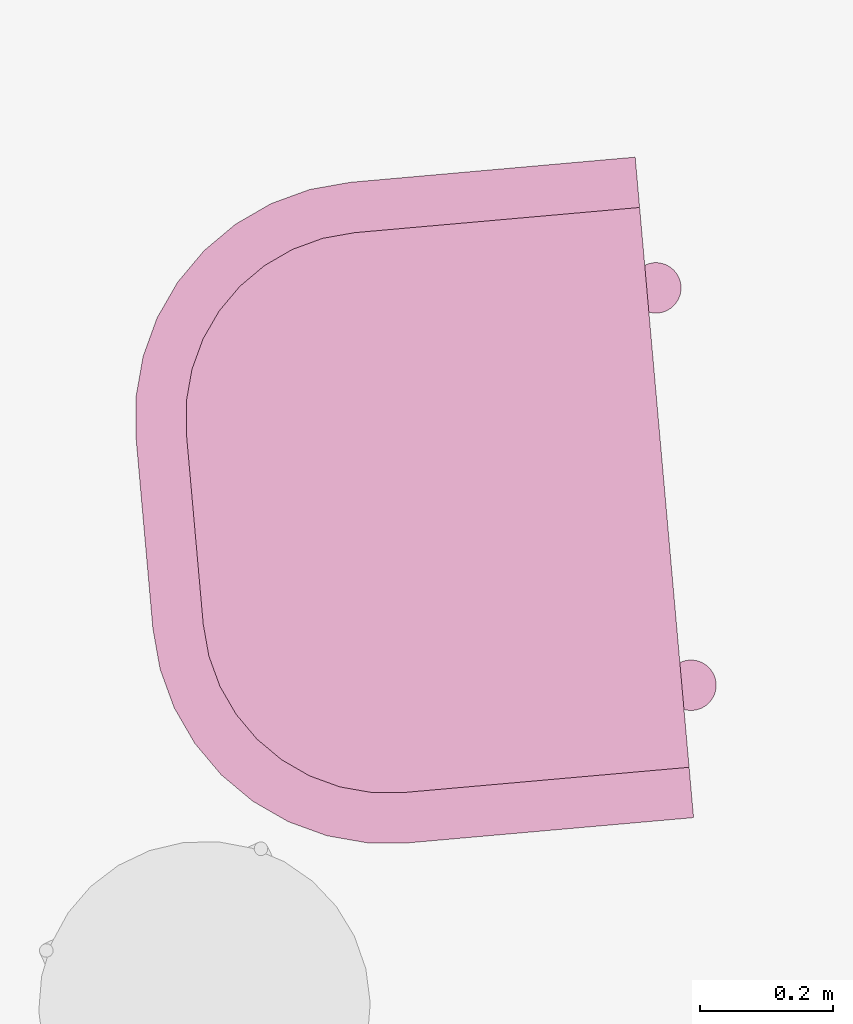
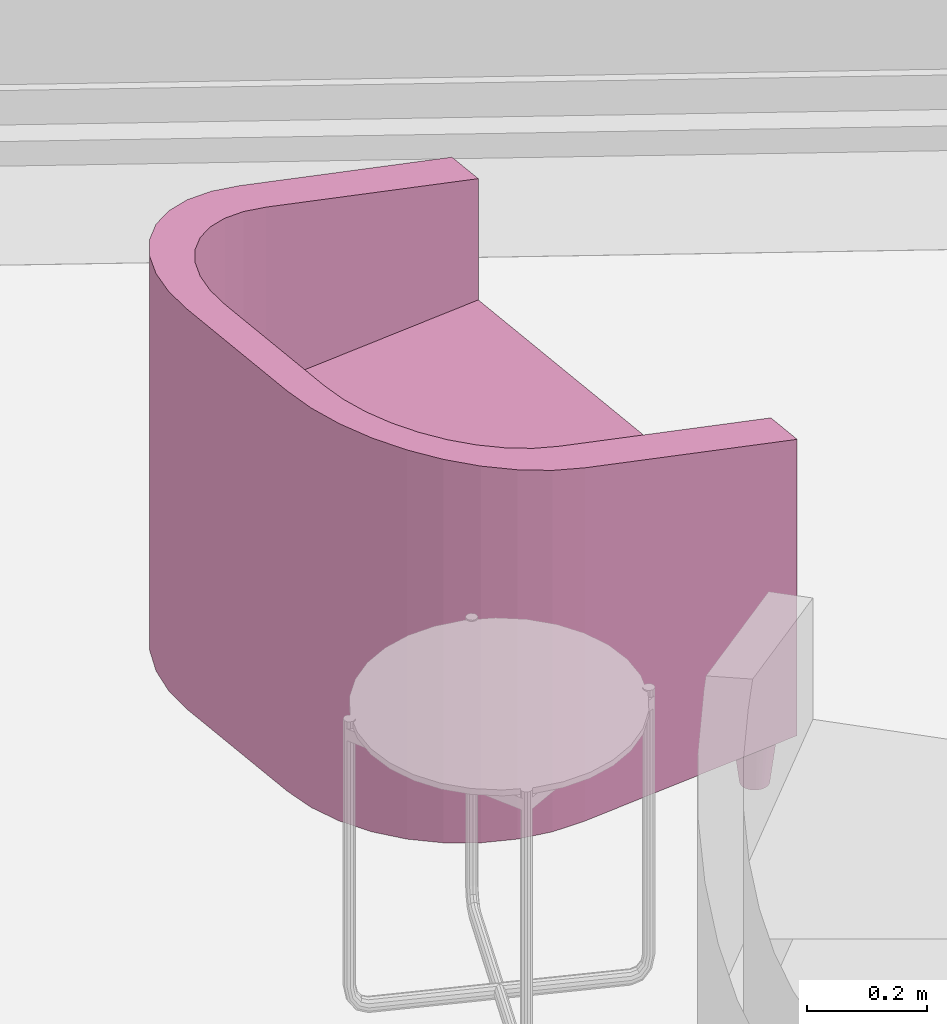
# One storey, part 25 of 36: 1 furnishing.
"""IFC2X3 building model written with IfcOpenShell, lengths in metres."""

from ifc_helpers import new_model, entity, si_unit, converted_unit, derived_unit, money_unit, direction, frame, origin_with_axes, place, context, subcontext, project, spatial, faceted_brep, source, transform, mapped, type_object, element, save


model = new_model("IFC2X3")

# Units and contexts
model_context = context("Model", 3, precision=1e-05, world=origin_with_axes(), true_north=direction((0.0, 1.0)))
body_context = subcontext(model_context, "Body", "Model", "MODEL_VIEW")
ifc_project = project(units=[si_unit("LENGTHUNIT", "METRE"), si_unit("AREAUNIT", "SQUARE_METRE"), si_unit("VOLUMEUNIT", "CUBIC_METRE"), converted_unit("PLANEANGLEUNIT", "DEGREE", entity("IfcPlaneAngleMeasure", 0.0174532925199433), si_unit("PLANEANGLEUNIT", "RADIAN"), dimensions=[0, 0, 0, 0, 0, 0, 0]), money_unit("EUR"), converted_unit("TIMEUNIT", "Year", entity("IfcTimeMeasure", 31556926.0), si_unit("TIMEUNIT", "SECOND"), dimensions=[0, 0, 1, 0, 0, 0, 0]), si_unit("MASSUNIT", "GRAM", prefix="KILO"), si_unit("THERMODYNAMICTEMPERATUREUNIT", "DEGREE_CELSIUS"), si_unit("LUMINOUSINTENSITYUNIT", "LUMEN"), si_unit("ENERGYUNIT", "JOULE", prefix="MEGA"), derived_unit("THERMALCONDUCTANCEUNIT", [(si_unit("POWERUNIT", "WATT"), 1), (si_unit("LENGTHUNIT", "METRE"), -1), (si_unit("THERMODYNAMICTEMPERATUREUNIT", "KELVIN"), -1)]), derived_unit("SPECIFICHEATCAPACITYUNIT", [(si_unit("ENERGYUNIT", "JOULE"), 1), (si_unit("MASSUNIT", "GRAM", prefix="KILO"), -1), (si_unit("THERMODYNAMICTEMPERATUREUNIT", "KELVIN"), -1)]), derived_unit("MASSDENSITYUNIT", [(si_unit("MASSUNIT", "GRAM", prefix="KILO"), 1), (si_unit("VOLUMEUNIT", "CUBIC_METRE"), -1)])], contexts=[model_context])

# Site, building, storey
site_placement = place(None, frame((-3.949935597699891, 1.740105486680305, 0.0), z_axis=(0.0, 0.0, 1.0), x_axis=(0.8799804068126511, -0.475009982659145, 0.0)))
site = spatial("IfcSite", under=ifc_project, at=site_placement, Name="Gelände", CompositionType="ELEMENT")
building_placement = place(site_placement, origin_with_axes())
building = spatial("IfcBuilding", under=site, at=building_placement, Name="Gebäude", CompositionType="ELEMENT")
storey_placement = place(building_placement, origin_with_axes())
storey = spatial("IfcBuildingStorey", under=building, at=storey_placement, Name="Erdgeschoss", CompositionType="ELEMENT", Elevation=0.0)

# Furnishing
furniture_type = type_object("IfcFurnitureType", Name="bucket chair (1)", AssemblyPlace="NOTDEFINED")
shared_shape = source(origin_with_axes(), body_context, "Body", "Brep", [
    faceted_brep([(0.47421411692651, 0.73188933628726, 0.0), (0.4746, 0.7363000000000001, 0.0), (0.4873, 0.7363000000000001, 0.1016), (0.4867211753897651, 0.72968400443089, 0.1016), (0.473068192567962, 0.7276126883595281, 0.0), (0.4711970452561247, 0.7236000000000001, 0.0), (0.468657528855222, 0.719973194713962, 0.0), (0.4655268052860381, 0.7168424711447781, 0.0), (0.4619, 0.7143029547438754, 0.0), (0.457887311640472, 0.712431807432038, 0.0), (0.45361066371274, 0.71128588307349, 0.0), (0.4492, 0.7109000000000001, 0.0), (0.44478933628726, 0.71128588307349, 0.0), (0.440512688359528, 0.712431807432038, 0.0), (0.4365, 0.7143029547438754, 0.0), (0.4328731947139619, 0.7168424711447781, 0.0), (0.429742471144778, 0.719973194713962, 0.0), (0.4272029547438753, 0.7236000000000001, 0.0), (0.4253318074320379, 0.7276126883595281, 0.0), (0.4241858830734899, 0.73188933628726, 0.0), (0.4238, 0.7363000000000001, 0.0), (0.4241858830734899, 0.7407106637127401, 0.0), (0.4253318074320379, 0.744987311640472, 0.0), (0.4272029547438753, 0.7490000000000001, 0.0), (0.429742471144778, 0.7526268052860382, 0.0), (0.4328731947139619, 0.7557575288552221, 0.0), (0.4365, 0.7582970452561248, 0.0), (0.440512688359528, 0.7601681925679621, 0.0), (0.44478933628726, 0.7613141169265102, 0.0), (0.4492, 0.7617, 0.0), (0.45361066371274, 0.7613141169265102, 0.0), (0.457887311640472, 0.7601681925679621, 0.0), (0.4619, 0.7582970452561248, 0.0), (0.4655268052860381, 0.7557575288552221, 0.0), (0.468657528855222, 0.7526268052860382, 0.0), (0.4711970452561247, 0.7490000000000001, 0.0), (0.4730681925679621, 0.744987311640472, 0.0), (0.4742141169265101, 0.7407106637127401, 0.0), (0.4867211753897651, 0.7429159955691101, 0.1016), (0.4850022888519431, 0.749330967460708, 0.1016), (0.4821955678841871, 0.7553500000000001, 0.1016), (0.4783862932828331, 0.7607902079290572, 0.1016), (0.4736902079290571, 0.7654862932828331, 0.1016), (0.46825, 0.7692955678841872, 0.1016), (0.462230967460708, 0.7721022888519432, 0.1016), (0.45581599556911, 0.7738211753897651, 0.1016), (0.4492, 0.7744000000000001, 0.1016), (0.44258400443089, 0.7738211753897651, 0.1016), (0.436169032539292, 0.7721022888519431, 0.1016), (0.43015, 0.7692955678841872, 0.1016), (0.4247097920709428, 0.7654862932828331, 0.1016), (0.420013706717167, 0.7607902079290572, 0.1016), (0.4162044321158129, 0.7553500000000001, 0.1016), (0.4133977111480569, 0.749330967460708, 0.1016), (0.4116788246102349, 0.7429159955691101, 0.1016), (0.4111, 0.7363000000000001, 0.1016), (0.4116788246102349, 0.72968400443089, 0.1016), (0.4133977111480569, 0.7232690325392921, 0.1016), (0.4162044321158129, 0.71725, 0.1016), (0.420013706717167, 0.711809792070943, 0.1016), (0.4247097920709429, 0.707113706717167, 0.1016), (0.43015, 0.703304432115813, 0.1016), (0.436169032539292, 0.700497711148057, 0.1016), (0.44258400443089, 0.698778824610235, 0.1016), (0.4492, 0.6982000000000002, 0.1016), (0.45581599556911, 0.698778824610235, 0.1016), (0.462230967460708, 0.700497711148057, 0.1016), (0.4682499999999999, 0.7033044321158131, 0.1016), (0.4736902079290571, 0.707113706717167, 0.1016), (0.478386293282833, 0.711809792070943, 0.1016), (0.482195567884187, 0.71725, 0.1016), (0.485002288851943, 0.7232690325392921, 0.1016)], [[[0, 1, 2, 3]], [[0, 4, 5, 6, 7, 8, 9, 10, 11, 12, 13, 14, 15, 16, 17, 18, 19, 20, 21, 22, 23, 24, 25, 26, 27, 28, 29, 30, 31, 32, 33, 34, 35, 36, 37, 1]], [[1, 37, 38, 2]], [[3, 2, 38, 39, 40, 41, 42, 43, 44, 45, 46, 47, 48, 49, 50, 51, 52, 53, 54, 55, 56, 57, 58, 59, 60, 61, 62, 63, 64, 65, 66, 67, 68, 69, 70, 71]], [[4, 0, 3, 71]], [[5, 4, 71, 70]], [[6, 5, 70, 69]], [[7, 6, 69, 68]], [[8, 7, 68, 67]], [[9, 8, 67, 66]], [[10, 9, 66, 65]], [[11, 10, 65, 64]], [[12, 11, 64, 63]], [[13, 12, 63, 62]], [[14, 13, 62, 61]], [[15, 14, 61, 60]], [[16, 15, 60, 59]], [[17, 16, 59, 58]], [[18, 17, 58, 57]], [[19, 18, 57, 56]], [[20, 19, 56, 55]], [[21, 20, 55, 54]], [[22, 21, 54, 53]], [[23, 22, 53, 52]], [[24, 23, 52, 51]], [[25, 24, 51, 50]], [[26, 25, 50, 49]], [[27, 26, 49, 48]], [[28, 27, 48, 47]], [[29, 28, 47, 46]], [[30, 29, 46, 45]], [[31, 30, 45, 44]], [[32, 31, 44, 43]], [[33, 32, 43, 42]], [[34, 33, 42, 41]], [[35, 34, 41, 40]], [[36, 35, 40, 39]], [[37, 36, 39, 38]]]),
    faceted_brep([(-0.42418588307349, 0.73188933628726, 0.0), (-0.4238, 0.7363000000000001, 0.0), (-0.4111, 0.7363000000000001, 0.1016), (-0.4116788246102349, 0.72968400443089, 0.1016), (-0.425331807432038, 0.7276126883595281, 0.0), (-0.4272029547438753, 0.7236000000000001, 0.0), (-0.429742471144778, 0.719973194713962, 0.0), (-0.4328731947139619, 0.7168424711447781, 0.0), (-0.4365, 0.7143029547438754, 0.0), (-0.440512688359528, 0.712431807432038, 0.0), (-0.44478933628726, 0.71128588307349, 0.0), (-0.4492, 0.7109000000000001, 0.0), (-0.45361066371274, 0.71128588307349, 0.0), (-0.457887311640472, 0.712431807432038, 0.0), (-0.4619, 0.7143029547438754, 0.0), (-0.4655268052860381, 0.7168424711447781, 0.0), (-0.468657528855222, 0.719973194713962, 0.0), (-0.4711970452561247, 0.7236000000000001, 0.0), (-0.4730681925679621, 0.7276126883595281, 0.0), (-0.4742141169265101, 0.73188933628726, 0.0), (-0.4746, 0.7363000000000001, 0.0), (-0.4742141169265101, 0.7407106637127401, 0.0), (-0.4730681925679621, 0.744987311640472, 0.0), (-0.4711970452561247, 0.7490000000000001, 0.0), (-0.468657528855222, 0.7526268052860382, 0.0), (-0.4655268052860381, 0.7557575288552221, 0.0), (-0.4619, 0.7582970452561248, 0.0), (-0.457887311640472, 0.7601681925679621, 0.0), (-0.45361066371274, 0.7613141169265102, 0.0), (-0.4492, 0.7617, 0.0), (-0.44478933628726, 0.7613141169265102, 0.0), (-0.440512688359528, 0.7601681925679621, 0.0), (-0.4365, 0.7582970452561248, 0.0), (-0.4328731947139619, 0.7557575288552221, 0.0), (-0.4297424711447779, 0.7526268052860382, 0.0), (-0.4272029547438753, 0.7490000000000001, 0.0), (-0.4253318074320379, 0.744987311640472, 0.0), (-0.4241858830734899, 0.7407106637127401, 0.0), (-0.4116788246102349, 0.7429159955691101, 0.1016), (-0.4133977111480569, 0.749330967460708, 0.1016), (-0.4162044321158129, 0.7553500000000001, 0.1016), (-0.4200137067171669, 0.7607902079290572, 0.1016), (-0.4247097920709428, 0.7654862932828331, 0.1016), (-0.43015, 0.7692955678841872, 0.1016), (-0.436169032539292, 0.7721022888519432, 0.1016), (-0.44258400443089, 0.7738211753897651, 0.1016), (-0.4492, 0.7744000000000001, 0.1016), (-0.45581599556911, 0.7738211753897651, 0.1016), (-0.462230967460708, 0.7721022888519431, 0.1016), (-0.4682499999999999, 0.7692955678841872, 0.1016), (-0.4736902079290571, 0.7654862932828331, 0.1016), (-0.478386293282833, 0.7607902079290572, 0.1016), (-0.482195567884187, 0.7553500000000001, 0.1016), (-0.4850022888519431, 0.749330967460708, 0.1016), (-0.4867211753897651, 0.7429159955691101, 0.1016), (-0.4873, 0.7363000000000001, 0.1016), (-0.4867211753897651, 0.72968400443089, 0.1016), (-0.4850022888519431, 0.7232690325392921, 0.1016), (-0.482195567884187, 0.71725, 0.1016), (-0.478386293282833, 0.711809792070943, 0.1016), (-0.4736902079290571, 0.707113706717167, 0.1016), (-0.4682499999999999, 0.703304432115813, 0.1016), (-0.462230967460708, 0.700497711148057, 0.1016), (-0.45581599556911, 0.698778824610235, 0.1016), (-0.4492, 0.6982000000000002, 0.1016), (-0.44258400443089, 0.698778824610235, 0.1016), (-0.436169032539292, 0.700497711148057, 0.1016), (-0.43015, 0.7033044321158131, 0.1016), (-0.4247097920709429, 0.707113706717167, 0.1016), (-0.420013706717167, 0.711809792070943, 0.1016), (-0.4162044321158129, 0.71725, 0.1016), (-0.413397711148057, 0.7232690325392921, 0.1016)], [[[0, 1, 2, 3]], [[0, 4, 5, 6, 7, 8, 9, 10, 11, 12, 13, 14, 15, 16, 17, 18, 19, 20, 21, 22, 23, 24, 25, 26, 27, 28, 29, 30, 31, 32, 33, 34, 35, 36, 37, 1]], [[1, 37, 38, 2]], [[3, 2, 38, 39, 40, 41, 42, 43, 44, 45, 46, 47, 48, 49, 50, 51, 52, 53, 54, 55, 56, 57, 58, 59, 60, 61, 62, 63, 64, 65, 66, 67, 68, 69, 70, 71]], [[4, 0, 3, 71]], [[5, 4, 71, 70]], [[6, 5, 70, 69]], [[7, 6, 69, 68]], [[8, 7, 68, 67]], [[9, 8, 67, 66]], [[10, 9, 66, 65]], [[11, 10, 65, 64]], [[12, 11, 64, 63]], [[13, 12, 63, 62]], [[14, 13, 62, 61]], [[15, 14, 61, 60]], [[16, 15, 60, 59]], [[17, 16, 59, 58]], [[18, 17, 58, 57]], [[19, 18, 57, 56]], [[20, 19, 56, 55]], [[21, 20, 55, 54]], [[22, 21, 54, 53]], [[23, 22, 53, 52]], [[24, 23, 52, 51]], [[25, 24, 51, 50]], [[26, 25, 50, 49]], [[27, 26, 49, 48]], [[28, 27, 48, 47]], [[29, 28, 47, 46]], [[30, 29, 46, 45]], [[31, 30, 45, 44]], [[32, 31, 44, 43]], [[33, 32, 43, 42]], [[34, 33, 42, 41]], [[35, 34, 41, 40]], [[36, 35, 40, 39]], [[37, 36, 39, 38]]]),
    faceted_brep([(0.3258141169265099, 0.7963893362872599, 0.0), (0.3261999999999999, 0.8008, 0.0), (0.3388999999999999, 0.8008, 0.1016), (0.338321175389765, 0.7941840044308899, 0.1016), (0.3246681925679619, 0.792112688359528, 0.0), (0.3227970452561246, 0.7881, 0.0), (0.3202575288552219, 0.7844731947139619, 0.0), (0.317126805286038, 0.781342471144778, 0.0), (0.3134999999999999, 0.7788029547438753, 0.0), (0.3094873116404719, 0.7769318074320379, 0.0), (0.3052106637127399, 0.77578588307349, 0.0), (0.3007999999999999, 0.7754, 0.0), (0.2963893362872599, 0.77578588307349, 0.0), (0.2921126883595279, 0.7769318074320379, 0.0), (0.2880999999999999, 0.7788029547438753, 0.0), (0.2844731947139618, 0.781342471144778, 0.0), (0.2813424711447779, 0.7844731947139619, 0.0), (0.2788029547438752, 0.7881, 0.0), (0.2769318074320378, 0.792112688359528, 0.0), (0.2757858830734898, 0.7963893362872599, 0.0), (0.2753999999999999, 0.8008, 0.0), (0.2757858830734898, 0.80521066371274, 0.0), (0.2769318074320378, 0.8094873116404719, 0.0), (0.2788029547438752, 0.8135, 0.0), (0.2813424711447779, 0.8171268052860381, 0.0), (0.2844731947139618, 0.820257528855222, 0.0), (0.2880999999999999, 0.8227970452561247, 0.0), (0.2921126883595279, 0.824668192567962, 0.0), (0.2963893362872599, 0.8258141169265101, 0.0), (0.3007999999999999, 0.8261999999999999, 0.0), (0.3052106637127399, 0.8258141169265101, 0.0), (0.3094873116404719, 0.824668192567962, 0.0), (0.3134999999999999, 0.8227970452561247, 0.0), (0.317126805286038, 0.820257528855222, 0.0), (0.320257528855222, 0.8171268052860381, 0.0), (0.3227970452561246, 0.8135, 0.0), (0.324668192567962, 0.8094873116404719, 0.0), (0.32581411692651, 0.80521066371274, 0.0), (0.338321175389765, 0.80741599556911, 0.1016), (0.336602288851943, 0.8138309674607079, 0.1016), (0.333795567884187, 0.81985, 0.1016), (0.329986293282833, 0.825290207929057, 0.1016), (0.3252902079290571, 0.829986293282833, 0.1016), (0.3198499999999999, 0.8337955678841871, 0.1016), (0.3138309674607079, 0.8366022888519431, 0.1016), (0.3074159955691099, 0.838321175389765, 0.1016), (0.3007999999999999, 0.8389, 0.1016), (0.2941840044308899, 0.838321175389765, 0.1016), (0.2877690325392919, 0.8366022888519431, 0.1016), (0.2817499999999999, 0.8337955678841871, 0.1016), (0.2763097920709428, 0.829986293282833, 0.1016), (0.2716137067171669, 0.825290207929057, 0.1016), (0.2678044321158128, 0.81985, 0.1016), (0.2649977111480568, 0.8138309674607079, 0.1016), (0.2632788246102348, 0.80741599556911, 0.1016), (0.2626999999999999, 0.8008, 0.1016), (0.2632788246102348, 0.7941840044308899, 0.1016), (0.2649977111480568, 0.787769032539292, 0.1016), (0.2678044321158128, 0.78175, 0.1016), (0.2716137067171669, 0.7763097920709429, 0.1016), (0.2763097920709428, 0.7716137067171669, 0.1016), (0.2817499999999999, 0.7678044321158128, 0.1016), (0.2877690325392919, 0.7649977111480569, 0.1016), (0.2941840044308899, 0.7632788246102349, 0.1016), (0.3007999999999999, 0.7627, 0.1016), (0.3074159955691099, 0.7632788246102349, 0.1016), (0.3138309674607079, 0.7649977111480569, 0.1016), (0.3198499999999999, 0.767804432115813, 0.1016), (0.325290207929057, 0.7716137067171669, 0.1016), (0.3299862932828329, 0.7763097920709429, 0.1016), (0.333795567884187, 0.78175, 0.1016), (0.3366022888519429, 0.787769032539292, 0.1016)], [[[0, 1, 2, 3]], [[0, 4, 5, 6, 7, 8, 9, 10, 11, 12, 13, 14, 15, 16, 17, 18, 19, 20, 21, 22, 23, 24, 25, 26, 27, 28, 29, 30, 31, 32, 33, 34, 35, 36, 37, 1]], [[1, 37, 38, 2]], [[3, 2, 38, 39, 40, 41, 42, 43, 44, 45, 46, 47, 48, 49, 50, 51, 52, 53, 54, 55, 56, 57, 58, 59, 60, 61, 62, 63, 64, 65, 66, 67, 68, 69, 70, 71]], [[4, 0, 3, 71]], [[5, 4, 71, 70]], [[6, 5, 70, 69]], [[7, 6, 69, 68]], [[8, 7, 68, 67]], [[9, 8, 67, 66]], [[10, 9, 66, 65]], [[11, 10, 65, 64]], [[12, 11, 64, 63]], [[13, 12, 63, 62]], [[14, 13, 62, 61]], [[15, 14, 61, 60]], [[16, 15, 60, 59]], [[17, 16, 59, 58]], [[18, 17, 58, 57]], [[19, 18, 57, 56]], [[20, 19, 56, 55]], [[21, 20, 55, 54]], [[22, 21, 54, 53]], [[23, 22, 53, 52]], [[24, 23, 52, 51]], [[25, 24, 51, 50]], [[26, 25, 50, 49]], [[27, 26, 49, 48]], [[28, 27, 48, 47]], [[29, 28, 47, 46]], [[30, 29, 46, 45]], [[31, 30, 45, 44]], [[32, 31, 44, 43]], [[33, 32, 43, 42]], [[34, 33, 42, 41]], [[35, 34, 41, 40]], [[36, 35, 40, 39]], [[37, 36, 39, 38]]]),
    faceted_brep([(-0.2757858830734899, 0.7963893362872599, 0.0), (-0.2753999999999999, 0.8008, 0.0), (-0.2626999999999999, 0.8008, 0.1016), (-0.2632788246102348, 0.7941840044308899, 0.1016), (-0.2769318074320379, 0.792112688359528, 0.0), (-0.2788029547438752, 0.7881, 0.0), (-0.2813424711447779, 0.7844731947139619, 0.0), (-0.2844731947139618, 0.781342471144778, 0.0), (-0.2880999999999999, 0.7788029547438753, 0.0), (-0.2921126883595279, 0.7769318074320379, 0.0), (-0.2963893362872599, 0.77578588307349, 0.0), (-0.3007999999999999, 0.7754, 0.0), (-0.3052106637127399, 0.77578588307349, 0.0), (-0.3094873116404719, 0.7769318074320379, 0.0), (-0.3134999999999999, 0.7788029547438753, 0.0), (-0.317126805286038, 0.781342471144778, 0.0), (-0.3202575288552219, 0.7844731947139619, 0.0), (-0.3227970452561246, 0.7881, 0.0), (-0.324668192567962, 0.792112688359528, 0.0), (-0.32581411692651, 0.7963893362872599, 0.0), (-0.3261999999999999, 0.8008, 0.0), (-0.32581411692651, 0.80521066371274, 0.0), (-0.324668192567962, 0.8094873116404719, 0.0), (-0.3227970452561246, 0.8135, 0.0), (-0.3202575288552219, 0.8171268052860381, 0.0), (-0.317126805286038, 0.820257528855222, 0.0), (-0.3134999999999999, 0.8227970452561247, 0.0), (-0.3094873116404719, 0.824668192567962, 0.0), (-0.3052106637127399, 0.8258141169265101, 0.0), (-0.3007999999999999, 0.8261999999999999, 0.0), (-0.2963893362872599, 0.8258141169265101, 0.0), (-0.2921126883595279, 0.824668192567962, 0.0), (-0.2880999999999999, 0.8227970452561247, 0.0), (-0.2844731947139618, 0.820257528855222, 0.0), (-0.2813424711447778, 0.8171268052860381, 0.0), (-0.2788029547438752, 0.8135, 0.0), (-0.2769318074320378, 0.8094873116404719, 0.0), (-0.2757858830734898, 0.80521066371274, 0.0), (-0.2632788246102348, 0.80741599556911, 0.1016), (-0.2649977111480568, 0.8138309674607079, 0.1016), (-0.2678044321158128, 0.81985, 0.1016), (-0.2716137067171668, 0.825290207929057, 0.1016), (-0.2763097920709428, 0.829986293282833, 0.1016), (-0.2817499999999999, 0.8337955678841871, 0.1016), (-0.2877690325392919, 0.8366022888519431, 0.1016), (-0.2941840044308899, 0.838321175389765, 0.1016), (-0.3007999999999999, 0.8389, 0.1016), (-0.3074159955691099, 0.838321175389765, 0.1016), (-0.3138309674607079, 0.8366022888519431, 0.1016), (-0.3198499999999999, 0.8337955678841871, 0.1016), (-0.3252902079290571, 0.829986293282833, 0.1016), (-0.3299862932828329, 0.825290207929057, 0.1016), (-0.333795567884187, 0.81985, 0.1016), (-0.336602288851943, 0.8138309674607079, 0.1016), (-0.338321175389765, 0.80741599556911, 0.1016), (-0.3388999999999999, 0.8008, 0.1016), (-0.338321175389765, 0.7941840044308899, 0.1016), (-0.336602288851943, 0.787769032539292, 0.1016), (-0.333795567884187, 0.78175, 0.1016), (-0.3299862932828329, 0.7763097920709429, 0.1016), (-0.325290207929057, 0.7716137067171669, 0.1016), (-0.3198499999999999, 0.7678044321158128, 0.1016), (-0.3138309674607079, 0.7649977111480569, 0.1016), (-0.3074159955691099, 0.7632788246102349, 0.1016), (-0.3007999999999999, 0.7627, 0.1016), (-0.2941840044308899, 0.7632788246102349, 0.1016), (-0.2877690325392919, 0.7649977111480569, 0.1016), (-0.2817499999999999, 0.767804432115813, 0.1016), (-0.2763097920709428, 0.7716137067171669, 0.1016), (-0.2716137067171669, 0.7763097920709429, 0.1016), (-0.2678044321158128, 0.78175, 0.1016), (-0.2649977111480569, 0.787769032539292, 0.1016)], [[[0, 1, 2, 3]], [[0, 4, 5, 6, 7, 8, 9, 10, 11, 12, 13, 14, 15, 16, 17, 18, 19, 20, 21, 22, 23, 24, 25, 26, 27, 28, 29, 30, 31, 32, 33, 34, 35, 36, 37, 1]], [[1, 37, 38, 2]], [[3, 2, 38, 39, 40, 41, 42, 43, 44, 45, 46, 47, 48, 49, 50, 51, 52, 53, 54, 55, 56, 57, 58, 59, 60, 61, 62, 63, 64, 65, 66, 67, 68, 69, 70, 71]], [[4, 0, 3, 71]], [[5, 4, 71, 70]], [[6, 5, 70, 69]], [[7, 6, 69, 68]], [[8, 7, 68, 67]], [[9, 8, 67, 66]], [[10, 9, 66, 65]], [[11, 10, 65, 64]], [[12, 11, 64, 63]], [[13, 12, 63, 62]], [[14, 13, 62, 61]], [[15, 14, 61, 60]], [[16, 15, 60, 59]], [[17, 16, 59, 58]], [[18, 17, 58, 57]], [[19, 18, 57, 56]], [[20, 19, 56, 55]], [[21, 20, 55, 54]], [[22, 21, 54, 53]], [[23, 22, 53, 52]], [[24, 23, 52, 51]], [[25, 24, 51, 50]], [[26, 25, 50, 49]], [[27, 26, 49, 48]], [[28, 27, 48, 47]], [[29, 28, 47, 46]], [[30, 29, 46, 45]], [[31, 30, 45, 44]], [[32, 31, 44, 43]], [[33, 32, 43, 42]], [[34, 33, 42, 41]], [[35, 34, 41, 40]], [[36, 35, 40, 39]], [[37, 36, 39, 38]]]),
    faceted_brep([(-0.5, 0.7871, 0.1016), (-0.5, 0.3556, 0.1016), (-0.5, 0.3556, 0.8191172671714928), (-0.5, 0.7871, 0.7034971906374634), (-0.4238, 0.7871, 0.1016), (-0.4238, 0.3556000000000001, 0.1016), (-0.4195552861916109, 0.3070826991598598, 0.1016), (-0.4069501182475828, 0.2600395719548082, 0.1016), (-0.3863674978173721, 0.2159000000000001, 0.1016), (-0.3584328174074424, 0.176005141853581, 0.1016), (-0.323994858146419, 0.1415671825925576, 0.1016), (-0.2841, 0.1136325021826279, 0.1016), (-0.2399604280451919, 0.09304988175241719, 0.1016), (-0.1929173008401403, 0.08044471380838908, 0.1016), (-0.1444, 0.0762, 0.1016), (0.1444000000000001, 0.07620000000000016, 0.1016), (0.1929173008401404, 0.08044471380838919, 0.1016), (0.2399604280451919, 0.0930498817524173, 0.1016), (0.2841, 0.1136325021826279, 0.1016), (0.3239948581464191, 0.1415671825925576, 0.1016), (0.3584328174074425, 0.176005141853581, 0.1016), (0.3863674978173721, 0.2159000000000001, 0.1016), (0.4069501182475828, 0.2600395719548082, 0.1016), (0.4195552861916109, 0.3070826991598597, 0.1016), (0.4238, 0.3556, 0.1016), (0.4238, 0.7871, 0.1016), (0.5, 0.7871, 0.1016), (0.4999999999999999, 0.3555999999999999, 0.1016), (0.494597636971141, 0.2938507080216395, 0.1016), (0.4785546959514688, 0.2339776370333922, 0.1016), (0.4523586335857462, 0.1778, 0.1016), (0.4168054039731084, 0.1270247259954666, 0.1016), (0.3729752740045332, 0.08319459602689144, 0.1016), (0.3221999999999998, 0.04764136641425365, 0.1016), (0.2660223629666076, 0.02144530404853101, 0.1016), (0.2061492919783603, 0.005402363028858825, 0.1016), (0.1444, 0.0, 0.1016), (0.0, 0.0, 0.1016), (-0.1444000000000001, 0.0, 0.1016), (-0.2061492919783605, 0.005402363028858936, 0.1016), (-0.2660223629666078, 0.02144530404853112, 0.1016), (-0.3222, 0.04764136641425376, 0.1016), (-0.3729752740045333, 0.08319459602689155, 0.1016), (-0.4168054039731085, 0.1270247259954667, 0.1016), (-0.4523586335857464, 0.1778000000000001, 0.1016), (-0.4785546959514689, 0.2339776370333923, 0.1016), (-0.4945976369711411, 0.2938507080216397, 0.1016), (-0.4945976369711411, 0.2938507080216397, 0.8356629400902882), (-0.4785546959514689, 0.2339776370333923, 0.8517058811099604), (-0.4523586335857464, 0.1778000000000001, 0.8667586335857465), (-0.4168054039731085, 0.1270247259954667, 0.8803638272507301), (-0.3729752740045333, 0.08319459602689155, 0.892108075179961), (-0.3222, 0.04764136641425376, 0.9016345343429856), (-0.2660223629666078, 0.02144530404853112, 0.9086537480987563), (-0.2061492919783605, 0.005402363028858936, 0.9129524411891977), (-0.1444000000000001, 0.0, 0.9144000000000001), (0.0, 0.0, 0.9144000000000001), (0.1444, 0.0, 0.9144000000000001), (0.2061492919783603, 0.005402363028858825, 0.9129524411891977), (0.2660223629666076, 0.02144530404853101, 0.9086537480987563), (0.3221999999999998, 0.04764136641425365, 0.9016345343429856), (0.3729752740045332, 0.08319459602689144, 0.8921080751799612), (0.4168054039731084, 0.1270247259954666, 0.8803638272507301), (0.4523586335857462, 0.1778, 0.8667586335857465), (0.4785546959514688, 0.2339776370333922, 0.8517058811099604), (0.494597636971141, 0.2938507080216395, 0.8356629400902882), (0.4999999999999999, 0.3555999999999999, 0.8191172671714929), (0.5, 0.7871, 0.7034971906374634), (0.4238, 0.7871, 0.7034971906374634), (0.4238, 0.3556, 0.8191172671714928), (0.4195552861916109, 0.3070826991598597, 0.8321174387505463), (0.4069501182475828, 0.2600395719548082, 0.8447226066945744), (0.3863674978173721, 0.2159000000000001, 0.8565497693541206), (0.3584328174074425, 0.176005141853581, 0.8672395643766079), (0.3239948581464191, 0.1415671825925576, 0.8764671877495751), (0.2841, 0.1136325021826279, 0.8839522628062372), (0.2399604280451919, 0.0930498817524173, 0.8894673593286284), (0.1929173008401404, 0.08044471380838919, 0.8928449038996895), (0.1444000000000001, 0.07620000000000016, 0.8939822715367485), (-0.1444, 0.0762, 0.8939822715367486), (-0.1929173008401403, 0.08044471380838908, 0.8928449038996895), (-0.2399604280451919, 0.09304988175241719, 0.8894673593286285), (-0.2841, 0.1136325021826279, 0.8839522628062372), (-0.323994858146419, 0.1415671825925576, 0.8764671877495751), (-0.3584328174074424, 0.176005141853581, 0.8672395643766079), (-0.3863674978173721, 0.2159000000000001, 0.8565497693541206), (-0.4069501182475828, 0.2600395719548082, 0.8447226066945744), (-0.4195552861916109, 0.3070826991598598, 0.8321174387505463), (-0.4238, 0.3556000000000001, 0.8191172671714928), (-0.4238, 0.7871, 0.7034971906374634)], [[[0, 1, 2, 3]], [[0, 4, 5, 6, 7, 8, 9, 10, 11, 12, 13, 14, 15, 16, 17, 18, 19, 20, 21, 22, 23, 24, 25, 26, 27, 28, 29, 30, 31, 32, 33, 34, 35, 36, 37, 38, 39, 40, 41, 42, 43, 44, 45, 46, 1]], [[1, 46, 47, 2]], [[3, 2, 47, 48, 49, 50, 51, 52, 53, 54, 55, 56, 57, 58, 59, 60, 61, 62, 63, 64, 65, 66, 67, 68, 69, 70, 71, 72, 73, 74, 75, 76, 77, 78, 79, 80, 81, 82, 83, 84, 85, 86, 87, 88, 89]], [[4, 0, 3, 89]], [[5, 4, 89, 88]], [[6, 5, 88, 87]], [[7, 6, 87, 86]], [[8, 7, 86, 85]], [[9, 8, 85, 84]], [[10, 9, 84, 83]], [[11, 10, 83, 82]], [[12, 11, 82, 81]], [[13, 12, 81, 80]], [[14, 13, 80, 79]], [[15, 14, 79, 78]], [[16, 15, 78, 77]], [[17, 16, 77, 76]], [[18, 17, 76, 75]], [[19, 18, 75, 74]], [[20, 19, 74, 73]], [[21, 20, 73, 72]], [[22, 21, 72, 71]], [[23, 22, 71, 70]], [[24, 23, 70, 69]], [[25, 24, 69, 68]], [[26, 25, 68, 67]], [[27, 26, 67, 66]], [[28, 27, 66, 65]], [[29, 28, 65, 64]], [[30, 29, 64, 63]], [[31, 30, 63, 62]], [[32, 31, 62, 61]], [[33, 32, 61, 60]], [[34, 33, 60, 59]], [[35, 34, 59, 58]], [[36, 35, 58, 57]], [[37, 36, 57, 56]], [[38, 37, 56, 55]], [[39, 38, 55, 54]], [[40, 39, 54, 53]], [[41, 40, 53, 52]], [[42, 41, 52, 51]], [[43, 42, 51, 50]], [[44, 43, 50, 49]], [[45, 44, 49, 48]], [[46, 45, 48, 47]]]),
    faceted_brep([(-0.4238, 0.7871, 0.1016), (-0.4238, 0.3556000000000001, 0.1016), (-0.4238, 0.3556000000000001, 0.4572000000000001), (-0.4238, 0.7871, 0.4572000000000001), (0.4238, 0.7871, 0.1016), (0.4238, 0.3556, 0.1016), (0.4195552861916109, 0.3070826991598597, 0.1016), (0.4069501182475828, 0.2600395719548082, 0.1016), (0.3863674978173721, 0.2159000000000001, 0.1016), (0.3584328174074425, 0.176005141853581, 0.1016), (0.3239948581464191, 0.1415671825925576, 0.1016), (0.2841, 0.1136325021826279, 0.1016), (0.2399604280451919, 0.0930498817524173, 0.1016), (0.1929173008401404, 0.08044471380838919, 0.1016), (0.1444000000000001, 0.07620000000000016, 0.1016), (-0.1444, 0.0762, 0.1016), (-0.1929173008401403, 0.08044471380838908, 0.1016), (-0.2399604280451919, 0.09304988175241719, 0.1016), (-0.2841, 0.1136325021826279, 0.1016), (-0.323994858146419, 0.1415671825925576, 0.1016), (-0.3584328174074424, 0.176005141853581, 0.1016), (-0.3863674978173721, 0.2159000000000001, 0.1016), (-0.4069501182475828, 0.2600395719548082, 0.1016), (-0.4195552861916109, 0.3070826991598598, 0.1016), (-0.4195552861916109, 0.3070826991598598, 0.4572000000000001), (-0.4069501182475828, 0.2600395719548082, 0.4572000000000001), (-0.3863674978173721, 0.2159000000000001, 0.4572000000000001), (-0.3584328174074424, 0.176005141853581, 0.4572000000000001), (-0.323994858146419, 0.1415671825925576, 0.4572000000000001), (-0.2841, 0.1136325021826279, 0.4572000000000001), (-0.2399604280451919, 0.09304988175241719, 0.4572000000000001), (-0.1929173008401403, 0.08044471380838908, 0.4572000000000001), (-0.1444, 0.0762, 0.4572000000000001), (0.1444000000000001, 0.07620000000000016, 0.4572000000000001), (0.1929173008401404, 0.08044471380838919, 0.4572000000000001), (0.2399604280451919, 0.0930498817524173, 0.4572000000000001), (0.2841, 0.1136325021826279, 0.4572000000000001), (0.3239948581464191, 0.1415671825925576, 0.4572000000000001), (0.3584328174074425, 0.176005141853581, 0.4572000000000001), (0.3863674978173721, 0.2159000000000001, 0.4572000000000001), (0.4069501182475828, 0.2600395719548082, 0.4572000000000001), (0.4195552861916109, 0.3070826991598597, 0.4572000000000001), (0.4238, 0.3556, 0.4572000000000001), (0.4238, 0.7871, 0.4572000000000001)], [[[0, 1, 2, 3]], [[0, 4, 5, 6, 7, 8, 9, 10, 11, 12, 13, 14, 15, 16, 17, 18, 19, 20, 21, 22, 23, 1]], [[1, 23, 24, 2]], [[3, 2, 24, 25, 26, 27, 28, 29, 30, 31, 32, 33, 34, 35, 36, 37, 38, 39, 40, 41, 42, 43]], [[4, 0, 3, 43]], [[5, 4, 43, 42]], [[6, 5, 42, 41]], [[7, 6, 41, 40]], [[8, 7, 40, 39]], [[9, 8, 39, 38]], [[10, 9, 38, 37]], [[11, 10, 37, 36]], [[12, 11, 36, 35]], [[13, 12, 35, 34]], [[14, 13, 34, 33]], [[15, 14, 33, 32]], [[16, 15, 32, 31]], [[17, 16, 31, 30]], [[18, 17, 30, 29]], [[19, 18, 29, 28]], [[20, 19, 28, 27]], [[21, 20, 27, 26]], [[22, 21, 26, 25]], [[23, 22, 25, 24]]]),
])
furnishing_placement = place(storey_placement, frame((23.53500098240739, 13.27965922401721, 0.0), z_axis=(0.0, 0.0, 1.0), x_axis=(0.5506536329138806, -0.8347338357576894, 0.0)))
element("IfcFurnishingElement", 1, at=furnishing_placement, inside=storey, type_object=furniture_type, Name="Objekt-0069", ObjectType="FURNITURE", context=body_context, shape_type="MappedRepresentation", body=[
    mapped(shared_shape, transform((0.0, 0.0, 0.0))),
])

save(model, "model.ifc")
